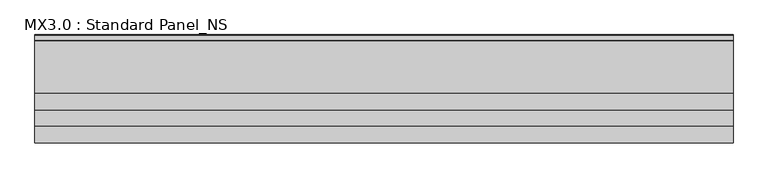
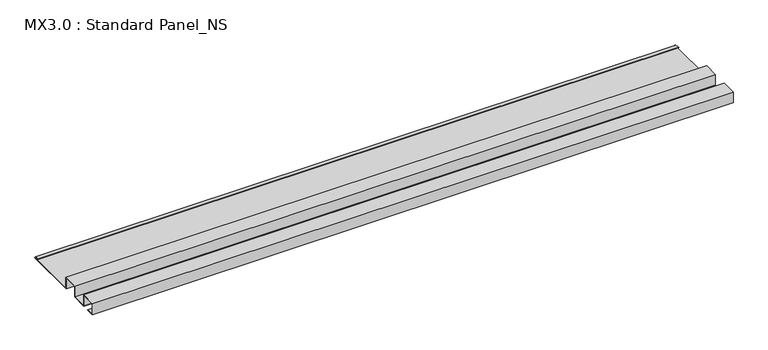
"""IFC4 building model written with IfcOpenShell, lengths in millimetres: proxy geometry, MX3.0 : Standard Panel_NS."""

from ifc_helpers import new_model, si_unit, point, frame, frame_2d, origin, place, context, project, spatial, polyline, circle_curve, trimmed, segment, composite_curve, outline, extrude, source, transform, mapped, element, save


def mx3_0_standard_panel_ns_184cfff8(model_context):
    return source(origin(), model_context, "Body", "SweptSolid", [
        extrude(outline(composite_curve([segment(polyline([(0.0, 0.0), (0.0, 38.0), (50.0, 38.0), (50.0, 1.0), (100.0, 1.0), (100.0, 38.0), (150.0, 38.0), (150.0, 0.0), (324.8317866, 0.0)]), True, "CONTINUOUS"), segment(trimmed(circle_curve(frame_2d((324.3094696, 0.9153551)), 1.0538928), [point((324.8317866, 0.0))], [point((324.8448691, 1.8231201))], True, "CARTESIAN"), True, "CONTINUOUS"), segment(polyline([(324.8448691, 1.8231201), (308.5989911, 4.94103), (308.7874714, 5.923107), (325.1748462, 2.778041)]), True, "CONTINUOUS"), segment(trimmed(circle_curve(frame_2d((324.3094696, 0.9153551)), 2.0538928), [point((325.1748462, 2.778041))], [point((325.0510156, -1.0))], False, "CARTESIAN"), True, "CONTINUOUS"), segment(polyline([(325.0510156, -1.0), (149.0, -1.0), (149.0, 37.0), (101.0, 37.0), (101.0, 0.0), (49.0, 0.0), (49.0, 37.0), (1.0, 37.0), (1.0, 1.0), (25.0, 1.0), (25.0, 0.0), (0.0, 0.0)]), True, "CONTINUOUS")], self_intersect=False)), frame((0.0, 0.0, 0.0), z_axis=(1.0, 0.0, 0.0), x_axis=(0.0, 1.0, 0.0)), (0.0, 0.0, 1.0), 2100.0),
    ])


if __name__ == "__main__":
    model = new_model("IFC4")
    model_context = context("Model", 3, world=origin())
    ifc_project = project(units=[si_unit("LENGTHUNIT", "METRE", prefix="MILLI")], contexts=[model_context])
    site = spatial("IfcSite", under=ifc_project)
    building = spatial("IfcBuilding", under=site)
    placement = place(None, origin())
    mx3_0_standard_panel_ns_shape = mx3_0_standard_panel_ns_184cfff8(model_context)
    element("IfcBuildingElementProxy", 1, Name="MX3.0 : Standard Panel_NS", ObjectType="MX3.0 : Standard Panel_NS", at=placement, inside=building, context=model_context, shape_type="MappedRepresentation", body=[
        mapped(mx3_0_standard_panel_ns_shape, transform((0.0, 0.0, 0.0), x_axis=(1.0, 0.0, 0.0), y_axis=(0.0, 1.0, 0.0), z_axis=(0.0, 0.0, 1.0))),
    ])
    save(model, "model.ifc")
